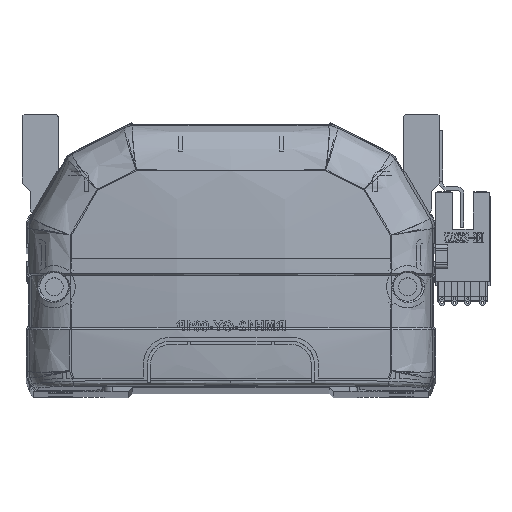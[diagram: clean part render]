
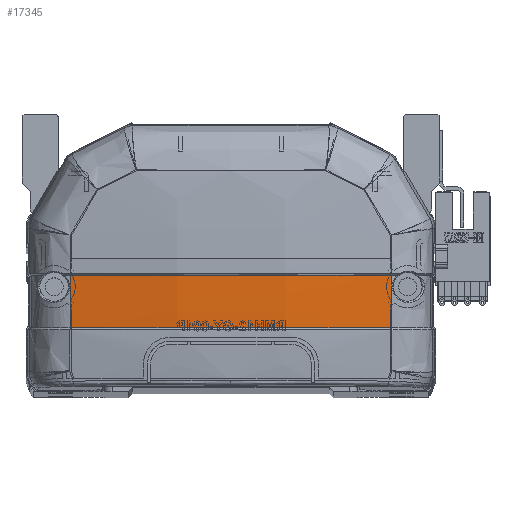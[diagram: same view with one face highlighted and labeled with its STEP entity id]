
A CAD part, top view. The second image highlights one B-rep face of the part: STEP entity #17345.
In plain terms, the highlighted free-form (B-spline) face has degree [3, 3] with [4, 4] control points.
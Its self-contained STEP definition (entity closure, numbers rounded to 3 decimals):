
#2004 = B_SPLINE_CURVE_WITH_KNOTS ( 'NONE', 3,
 ( #14749, #41874, #41546, #26509, #15085, #42194 ),
 .UNSPECIFIED., .F., .F.,
 ( 4, 2, 4 ),
 ( 0., 0.5, 1. ),
 .UNSPECIFIED. ) ;
#3001 = CARTESIAN_POINT ( 'NONE',  ( -26.721, 15.83, -7.624 ) ) ;
#4646 = CARTESIAN_POINT ( 'NONE',  ( 39.966, 24.413, -6.306 ) ) ;
#5543 = CARTESIAN_POINT ( 'NONE',  ( -40.461, 24.47, -6.231 ) ) ;
#7738 = CARTESIAN_POINT ( 'NONE',  ( -39.973, 20.118, -6.142 ) ) ;
#8131 = CARTESIAN_POINT ( 'NONE',  ( -39.963, 28.706, -6.372 ) ) ;
#10730 = EDGE_CURVE ( 'NONE', #15443, #20612, #2004, .T. ) ;
#10848 = CARTESIAN_POINT ( 'NONE',  ( -23.389, 15.83, -7.947 ) ) ;
#13150 = CARTESIAN_POINT ( 'NONE',  ( -40.461, 20.111, -6.066 ) ) ;
#14749 = CARTESIAN_POINT ( 'NONE',  ( -39.963, 28.706, -6.372 ) ) ;
#14780 = CARTESIAN_POINT ( 'NONE',  ( -33.365, 15.83, -6.848 ) ) ;
#15085 = CARTESIAN_POINT ( 'NONE',  ( 26.749, 28.706, -8.432 ) ) ;
#15443 = VERTEX_POINT ( 'NONE', #8131 ) ;
#15818 = ORIENTED_EDGE ( 'NONE', *, *, #34582, .T. ) ;
#15961 = CARTESIAN_POINT ( 'NONE',  ( 39.985, 15.83, -5.879 ) ) ;
#16710 = CARTESIAN_POINT ( 'NONE',  ( -13.598, 15.499, -10.032 ) ) ;
#17032 = CARTESIAN_POINT ( 'NONE',  ( -13.598, 28.769, -10.535 ) ) ;
#17276 = CARTESIAN_POINT ( 'NONE',  ( 39.963, 28.706, -6.372 ) ) ;
#17345 = ADVANCED_FACE ( 'NONE', ( #34891 ), #42832, .F. ) ;
#17366 = CARTESIAN_POINT ( 'NONE',  ( -13.598, 19.918, -10.302 ) ) ;
#17491 = B_SPLINE_CURVE_WITH_KNOTS ( 'NONE', 3,
 ( #15961, #23671, #4646, #17276 ),
 .UNSPECIFIED., .F., .F.,
 ( 4, 4 ),
 ( 0., 1. ),
 .UNSPECIFIED. ) ;
#17513 = ORIENTED_EDGE ( 'NONE', *, *, #33624, .F. ) ;
#17719 = CARTESIAN_POINT ( 'NONE',  ( 39.985, 15.83, -5.879 ) ) ;
#20612 = VERTEX_POINT ( 'NONE', #26214 ) ;
#21071 = CARTESIAN_POINT ( 'NONE',  ( -40.461, 15.757, -5.8 ) ) ;
#21231 = CARTESIAN_POINT ( 'NONE',  ( 13.598, 15.499, -10.032 ) ) ;
#22355 = CARTESIAN_POINT ( 'NONE',  ( 13.38, 15.83, -8.984 ) ) ;
#23671 = CARTESIAN_POINT ( 'NONE',  ( 39.973, 20.12, -6.142 ) ) ;
#24245 = CARTESIAN_POINT ( 'NONE',  ( 13.598, 19.918, -10.302 ) ) ;
#24422 = CARTESIAN_POINT ( 'NONE',  ( 13.598, 24.342, -10.47 ) ) ;
#24583 = CARTESIAN_POINT ( 'NONE',  ( -40.461, 28.832, -6.296 ) ) ;
#26016 = CARTESIAN_POINT ( 'NONE',  ( -6.692, 15.83, -8.984 ) ) ;
#26214 = CARTESIAN_POINT ( 'NONE',  ( 39.963, 28.706, -6.372 ) ) ;
#26509 = CARTESIAN_POINT ( 'NONE',  ( 13.375, 28.707, -9.468 ) ) ;
#26790 = CARTESIAN_POINT ( 'NONE',  ( -39.963, 28.706, -6.372 ) ) ;
#27308 = CARTESIAN_POINT ( 'NONE',  ( -39.985, 15.83, -5.879 ) ) ;
#30288 = EDGE_LOOP ( 'NONE', ( #47247, #36993, #15818, #17513 ) ) ;
#31045 = VERTEX_POINT ( 'NONE', #42394 ) ;
#33043 = EDGE_CURVE ( 'NONE', #46790, #20612, #17491, .T. ) ;
#33624 = EDGE_CURVE ( 'NONE', #46790, #31045, #43926, .T. ) ;
#34527 = CARTESIAN_POINT ( 'NONE',  ( -39.966, 24.412, -6.306 ) ) ;
#34582 = EDGE_CURVE ( 'NONE', #15443, #31045, #34593, .T. ) ;
#34593 = B_SPLINE_CURVE_WITH_KNOTS ( 'NONE', 3,
 ( #26790, #34527, #7738, #27308 ),
 .UNSPECIFIED., .F., .F.,
 ( 4, 4 ),
 ( 0., 1. ),
 .UNSPECIFIED. ) ;
#34891 = FACE_OUTER_BOUND ( 'NONE', #30288, .T. ) ;
#36993 = ORIENTED_EDGE ( 'NONE', *, *, #10730, .F. ) ;
#40110 = CARTESIAN_POINT ( 'NONE',  ( 40.461, 20.111, -6.066 ) ) ;
#40276 = CARTESIAN_POINT ( 'NONE',  ( -13.598, 24.342, -10.47 ) ) ;
#41546 = CARTESIAN_POINT ( 'NONE',  ( -13.373, 28.707, -9.468 ) ) ;
#41570 = CARTESIAN_POINT ( 'NONE',  ( 26.761, 15.83, -7.945 ) ) ;
#41737 = CARTESIAN_POINT ( 'NONE',  ( -36.679, 15.83, -6.395 ) ) ;
#41874 = CARTESIAN_POINT ( 'NONE',  ( -26.748, 28.706, -8.432 ) ) ;
#42194 = CARTESIAN_POINT ( 'NONE',  ( 39.963, 28.706, -6.372 ) ) ;
#42394 = CARTESIAN_POINT ( 'NONE',  ( -39.985, 15.83, -5.879 ) ) ;
#42832 =( BOUNDED_SURFACE ( )  B_SPLINE_SURFACE ( 3, 3, ( 
 ( #43795, #40110, #43962, #44298 ),
 ( #21231, #24245, #24422, #47562 ),
 ( #16710, #17366, #40276, #17032 ),
 ( #21071, #13150, #5543, #24583 ) ),
 .UNSPECIFIED., .F., .F., .F. ) 
 B_SPLINE_SURFACE_WITH_KNOTS ( ( 4, 4 ),
 ( 4, 4 ),
 ( 0., 1. ),
 ( 0., 1. ),
 .UNSPECIFIED. ) 
 GEOMETRIC_REPRESENTATION_ITEM ( )  RATIONAL_B_SPLINE_SURFACE ( (
 ( 1., 1., 1., 1.),
 ( 0.992, 0.992, 0.992, 0.992),
 ( 0.992, 0.992, 0.992, 0.992),
 ( 1., 1., 1., 1.) ) ) 
 REPRESENTATION_ITEM ( '' )  SURFACE ( )  );
#43795 = CARTESIAN_POINT ( 'NONE',  ( 40.461, 15.757, -5.8 ) ) ;
#43926 = B_SPLINE_CURVE_WITH_KNOTS ( 'NONE', 3,
 ( #46095, #41570, #22355, #26016, #49326, #10848, #3001, #14780, #41737, #45933 ),
 .UNSPECIFIED., .F., .F.,
 ( 4, 2, 2, 2, 4 ),
 ( 0., 0.04, 0.06, 0.07, 0.08 ),
 .UNSPECIFIED. ) ;
#43962 = CARTESIAN_POINT ( 'NONE',  ( 40.461, 24.47, -6.231 ) ) ;
#44298 = CARTESIAN_POINT ( 'NONE',  ( 40.461, 28.832, -6.296 ) ) ;
#45933 = CARTESIAN_POINT ( 'NONE',  ( -39.985, 15.83, -5.879 ) ) ;
#46095 = CARTESIAN_POINT ( 'NONE',  ( 39.985, 15.83, -5.879 ) ) ;
#46790 = VERTEX_POINT ( 'NONE', #17719 ) ;
#47247 = ORIENTED_EDGE ( 'NONE', *, *, #33043, .T. ) ;
#47562 = CARTESIAN_POINT ( 'NONE',  ( 13.598, 28.769, -10.535 ) ) ;
#49326 = CARTESIAN_POINT ( 'NONE',  ( -13.384, 15.83, -8.724 ) ) ;
